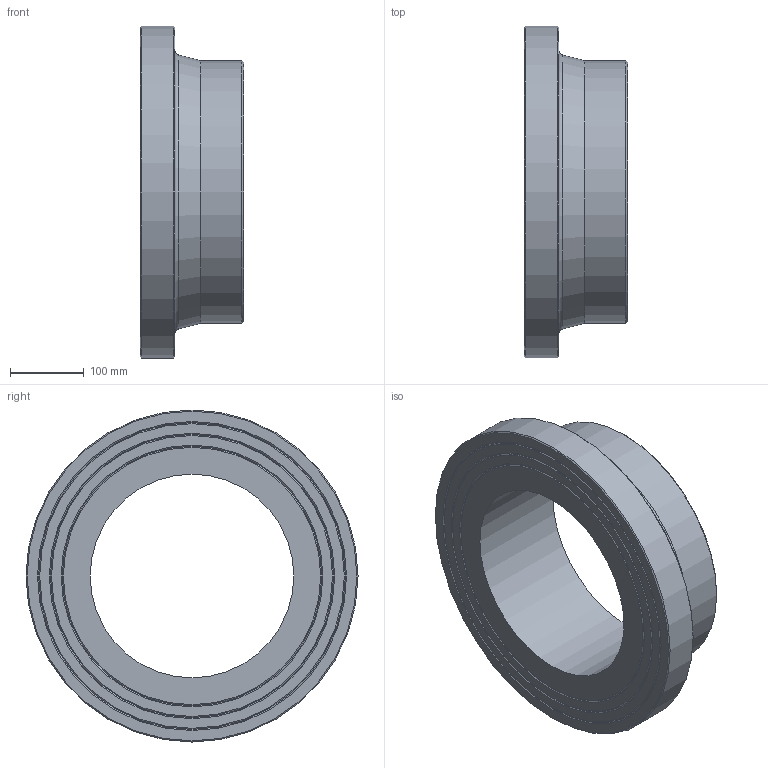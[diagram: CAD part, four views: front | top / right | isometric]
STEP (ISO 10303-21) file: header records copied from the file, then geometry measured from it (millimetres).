
FILE_DESCRIPTION(/* description */ ('Unknown'),/* implementation_level */ '2;1');
FILE_NAME(/* name */ 'CCP355G',/* time_stamp */ '2022-04-04T12:56:42+02:00',/* author */ ('Unknown'),/* organization */ ('Unknown'),/* preprocessor_version */ 'ST-DEVELOPER v18.1',/* originating_system */ 'Solid Edge',/* authorisation */ 'Unknown');
FILE_SCHEMA (('AUTOMOTIVE_DESIGN {1 0 10303 214 3 1 1}'));
Length unit declared in the file: millimetre
Products named in the file (1): CCP355G
Bounding box: 140 x 449 x 449 mm (x, y, z)
Volume: 8466173.2 mm3; surface area: 477450.6 mm2
Topology: 1 solids, 1 shells, 20 faces, 35 edges, 21 vertices
Faces by surface type: cone 10, plane 6, cylinder 3, torus 1
Full cylindrical faces by diameter (mm): 275.6 x1, 355 x1, 449 x1
Entity records: 438 total; most frequent: DIRECTION 82, CARTESIAN_POINT 61, AXIS2_PLACEMENT_3D 41, ORIENTED_EDGE 40, EDGE_LOOP 40, FACE_BOUND 40, EDGE_CURVE 20, VERTEX_POINT 20
